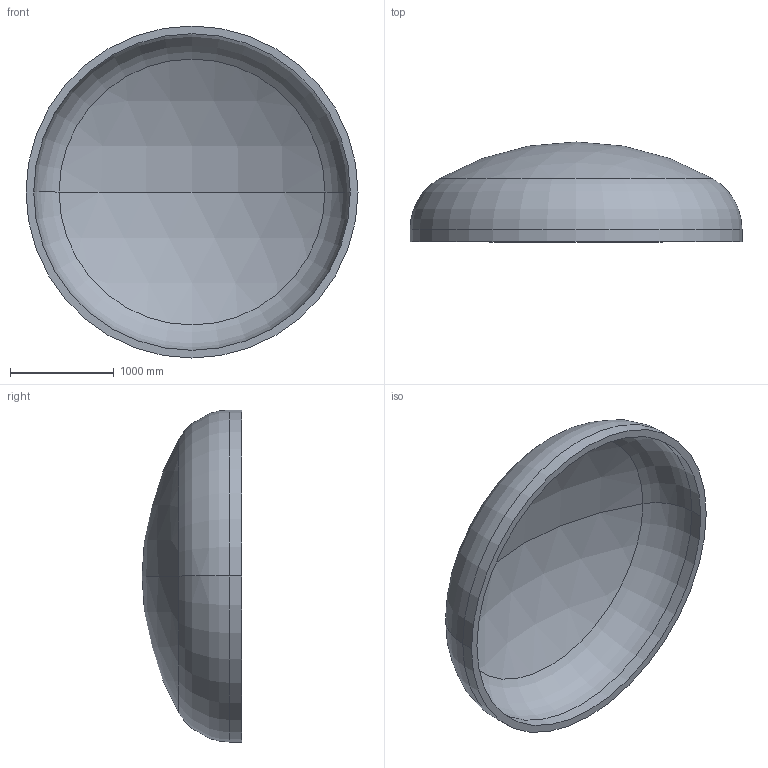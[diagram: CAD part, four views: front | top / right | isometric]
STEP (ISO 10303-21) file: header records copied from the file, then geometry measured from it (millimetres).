
FILE_DESCRIPTION (( 'STEP AP203' ), '1' );
FILE_NAME ('DIN 28013 Korbbogenform_-_Boden DIN 28013 - 3200 x 120 - I - s=74.step', '2016-07-01T18:50:11', ( '' ), ( '' ), 'SwSTEP 2.0', 'SolidWorks 2013', '' );
FILE_SCHEMA (( 'CONFIG_CONTROL_DESIGN' ));
Length unit declared in the file: millimetre
Products named in the file (1): DIN 28013 Korbbogenform_-_Boden DIN 28013 - 3200 x 120 - I - s=74
Bounding box: 3200 x 961.91 x 3200 mm (x, y, z)
Volume: 885906204.7 mm3; surface area: 24681597.5 mm2
Topology: 1 solids, 1 shells, 13 faces, 24 edges, 14 vertices
Faces by surface type: torus 4, cylinder 4, sphere 4, plane 1
Entity records: 407 total; most frequent: DIRECTION 72, CARTESIAN_POINT 52, ORIENTED_EDGE 48, AXIS2_PLACEMENT_3D 34, EDGE_CURVE 24, CIRCLE 20, VERTEX_POINT 14, EDGE_LOOP 14
